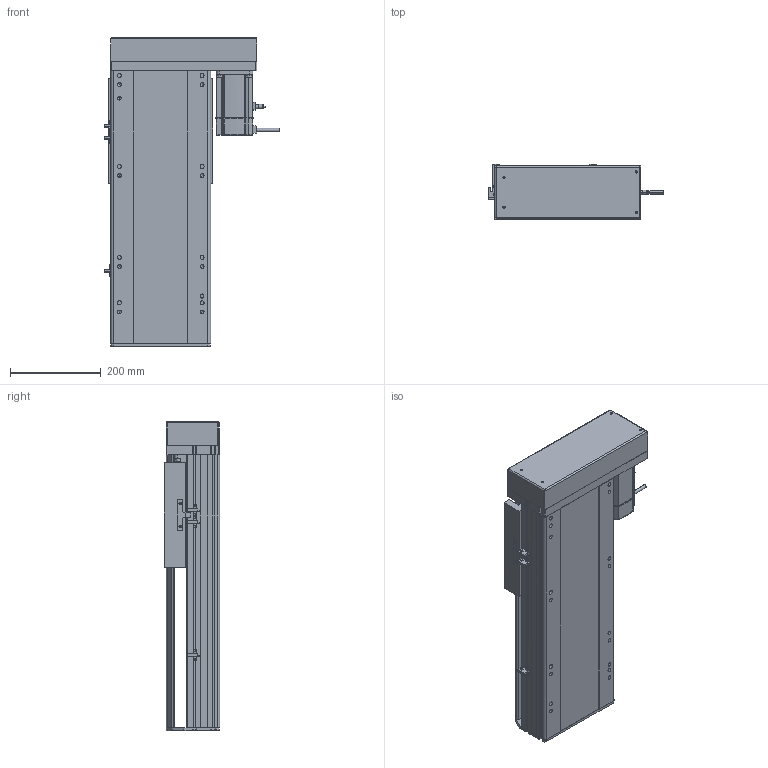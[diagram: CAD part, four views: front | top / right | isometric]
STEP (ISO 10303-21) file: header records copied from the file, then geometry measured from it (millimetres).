
FILE_DESCRIPTION (( 'STEP AP214' ), '1' );
FILE_NAME ('RTH22-XX-300-L-M75-C4.STEP', '2025-10-24T10:55:33', ( 'Microsoft' ), ( 'Microsoft' ), 'SwSTEP 2.0', 'SolidWorks 2018', '' );
FILE_SCHEMA (( 'AUTOMOTIVE_DESIGN' ));
Length unit declared in the file: millimetre
Products named in the file (10): N_RTH22-L-018裔赽^RTH22-XX-XX-L-M75-C4; N_RTH22-L-007奻裔^RTH22-XX-XX-L-M75-C4; N_RTH22-L-008-P75萇儂啣^RTH22-XX-XX-L-M75-C4; N_RTH22-L-011菁釱^RTH22-XX-XX-L-M75-C4; N_RTH22-GY-013外置感应片^RTH22-XX-XX-L-M75-C4; N_RTH22-L-004-SFS25賑釱^RTH22-XX-XX-L-M75-C4; N_OMRON EE-SX672 传感器^RTH22-XX-XX-L-M75-C4; RTH22-XX-300-L-M75-C4; N_RTH22-GY-001耜裔^RTH22-XX-XX-L-M75-C4; N_750W萇儂^RTH22-XX-XX-L-M75-C4
Assembly tree (11 placements, depth 2):
  RTH22-XX-300-L-M75-C4
    N_RTH22-L-011菁釱^RTH22-XX-XX-L-M75-C4
    N_RTH22-GY-001耜裔^RTH22-XX-XX-L-M75-C4
    N_750W萇儂^RTH22-XX-XX-L-M75-C4
    N_RTH22-L-008-P75萇儂啣^RTH22-XX-XX-L-M75-C4
    N_RTH22-L-007奻裔^RTH22-XX-XX-L-M75-C4
    N_RTH22-L-018裔赽^RTH22-XX-XX-L-M75-C4
    N_OMRON EE-SX672 传感器^RTH22-XX-XX-L-M75-C4  x3
    N_RTH22-GY-013外置感应片^RTH22-XX-XX-L-M75-C4
    N_RTH22-L-004-SFS25賑釱^RTH22-XX-XX-L-M75-C4
Bounding box: 384.7 x 122 x 679.7 mm (x, y, z)
Volume: 10721609.1 mm3; surface area: 1305050.3 mm2
Topology: 11 solids, 11 shells, 1552 faces, 4229 edges, 2731 vertices
Faces by surface type: plane 789, cylinder 434, bspline 279, cone 50
Entity records: 38361 total; most frequent: CARTESIAN_POINT 11818, ORIENTED_EDGE 5450, DIRECTION 5095, EDGE_CURVE 2725, VERTEX_POINT 1767, LINE 1711, VECTOR 1711, AXIS2_PLACEMENT_3D 1692
